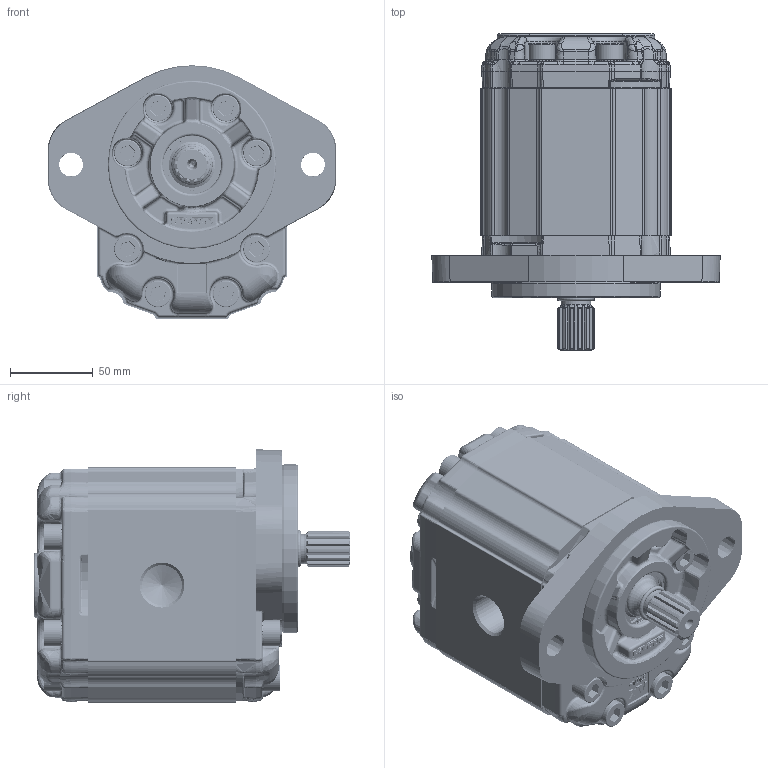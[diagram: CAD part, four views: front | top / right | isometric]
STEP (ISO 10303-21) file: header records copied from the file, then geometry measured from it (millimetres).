
FILE_DESCRIPTION(/* description */ ('Unknown'),/* implementation_level */ '2;1');
FILE_NAME(/* name */ 'X3P7931IEDA',/* time_stamp */ '2023-09-28T16:04:34+02:00',/* author */ ('Unknown'),/* organization */ ('Unknown'),/* preprocessor_version */ 'ST-DEVELOPER v16.7',/* originating_system */ 'Solid Edge',/* authorisation */ 'Unknown');
FILE_SCHEMA (('AUTOMOTIVE_DESIGN {1 0 10303 214 3 1 1}'));
Products named in the file (5): X3P7931IEDA; X3P31; 3I; X3EDH89; XP331-A
Assembly tree (4 placements, depth 2):
  X3P7931IEDA
    X3P31
    3I
    X3EDH89
    XP331-A
Bounding box: 174 x 191.2 x 153 mm (x, y, z)
Volume: 2147196.3 mm3; surface area: 224687.8 mm2
Topology: 4 solids, 5 shells, 4716 faces, 14354 edges, 8949 vertices
Faces by surface type: cylinder 1847, plane 1272, bspline 1254, torus 172, cone 145, sphere 26
Full cylindrical faces by diameter (mm): 2 x2, 10 x16, 10.35 x30, 10.5 x1, 14.314 x1, 14.315 x1, 15.8 x16, 16 x16, 18 x2, 24.117 x2, 24.98 x1, 25 x2, 25.968 x1, 28.16 x1, 30.291 x1, 31 x1, 31.293 x1, 32.742 x1, 34.956 x1, 35 x1, 35.2 x1, 37 x1, 101.6 x1
Entity records: 348366 total; most frequent: CARTESIAN_POINT 199865, ORIENTED_EDGE 27792, DIRECTION 19817, EDGE_CURVE 13896, VERTEX_POINT 8809, AXIS2_PLACEMENT_3D 7499, FACE_BOUND 5151, EDGE_LOOP 5147
